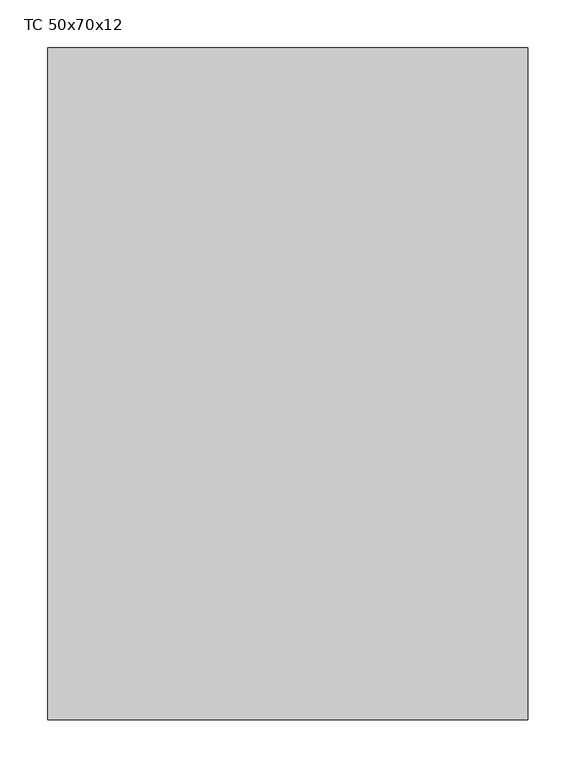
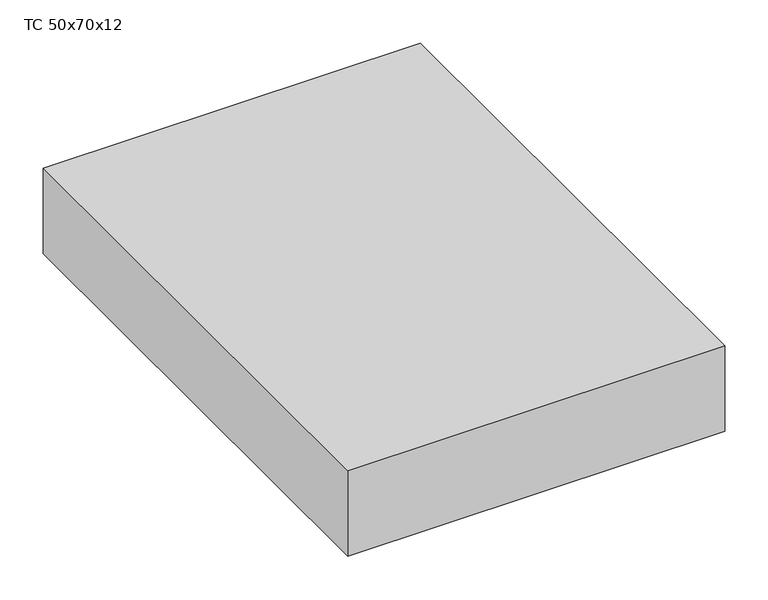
"""IFC4 building model written with IfcOpenShell, lengths in millimetres: proxy geometry, TABLERO ELECTRICO DE SUPERFICIE : TC 50x70x12."""

from ifc_helpers import new_model, si_unit, origin, origin_with_axes, place, context, project, spatial, polyline, outline, extrude, source, transform, mapped, element, save


def tc_50x70x12_88f3f4f6(model_context):
    return source(origin(), model_context, "Body", "SweptSolid", [
        extrude(outline(polyline([(250.0, 0.0), (250.0, -700.0), (-250.0, -700.0), (-250.0, 0.0), (250.0, 0.0)])), origin_with_axes(), (0.0, 0.0, 1.0), 120.0),
    ])


if __name__ == "__main__":
    model = new_model("IFC4")
    model_context = context("Model", 3, world=origin())
    ifc_project = project(units=[si_unit("LENGTHUNIT", "METRE", prefix="MILLI")], contexts=[model_context])
    site = spatial("IfcSite", under=ifc_project)
    building = spatial("IfcBuilding", under=site)
    placement = place(None, origin())
    tc_50x70x12_shape = tc_50x70x12_88f3f4f6(model_context)
    element("IfcBuildingElementProxy", 1, Name="TABLERO ELECTRICO DE SUPERFICIE : TC 50x70x12", ObjectType="TABLERO ELECTRICO DE SUPERFICIE : TC 50x70x12", at=placement, inside=building, context=model_context, shape_type="MappedRepresentation", body=[
        mapped(tc_50x70x12_shape, transform((0.0, 0.0, 0.0), x_axis=(1.0, 0.0, 0.0), y_axis=(0.0, 1.0, 0.0), z_axis=(0.0, 0.0, 1.0))),
    ])
    save(model, "model.ifc")
